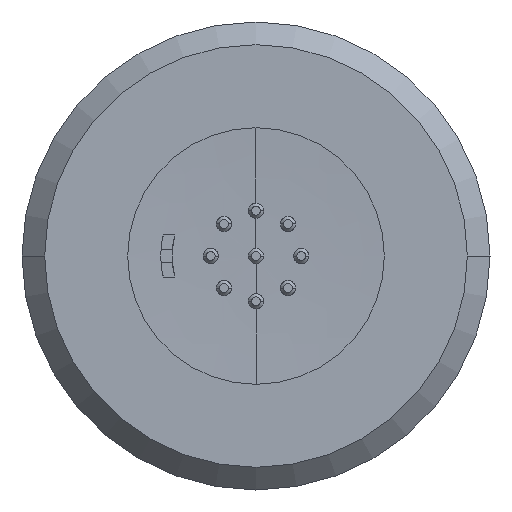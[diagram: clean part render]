
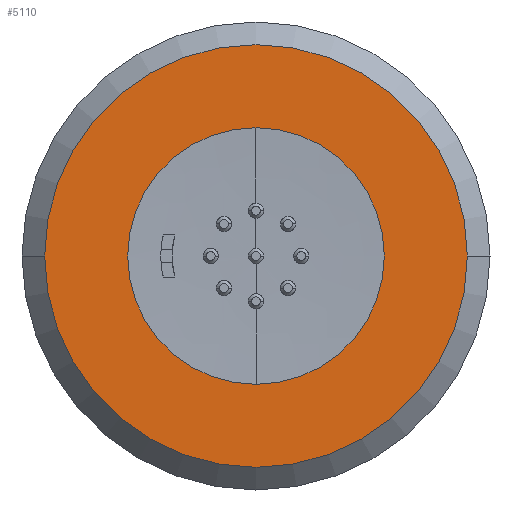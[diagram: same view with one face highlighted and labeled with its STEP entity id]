
A CAD part, left-side view. The second image highlights one B-rep face of the part: STEP entity #5110.
In plain terms, the highlighted planar face has unit normal (-1, 0, 0).
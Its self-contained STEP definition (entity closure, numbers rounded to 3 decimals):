
#1236=CARTESIAN_POINT('',(-15.5,0.,0.));
#1237=DIRECTION('',(1.,0.,0.));
#1238=DIRECTION('',(0.,-1.,0.));
#1239=AXIS2_PLACEMENT_3D('',#1236,#1237,#1238);
#1241=CARTESIAN_POINT('',(-15.5,0.,0.));
#1242=DIRECTION('',(1.,0.,0.));
#1243=DIRECTION('',(0.,0.,-1.));
#1244=AXIS2_PLACEMENT_3D('',#1241,#1242,#1243);
#1246=CARTESIAN_POINT('',(-15.5,0.,0.));
#1247=DIRECTION('',(1.,0.,0.));
#1248=DIRECTION('',(0.,1.,0.));
#1249=AXIS2_PLACEMENT_3D('',#1246,#1247,#1248);
#1251=CARTESIAN_POINT('',(-15.5,0.,0.));
#1252=DIRECTION('',(1.,0.,0.));
#1253=DIRECTION('',(0.,0.,1.));
#1254=AXIS2_PLACEMENT_3D('',#1251,#1252,#1253);
#1256=CARTESIAN_POINT('',(-15.5,0.,0.));
#1257=DIRECTION('',(-1.,0.,0.));
#1258=DIRECTION('',(0.,-1.,0.));
#1259=AXIS2_PLACEMENT_3D('',#1256,#1257,#1258);
#1261=CARTESIAN_POINT('',(-15.5,0.,0.));
#1262=DIRECTION('',(-1.,0.,0.));
#1263=DIRECTION('',(0.,1.,0.));
#1264=AXIS2_PLACEMENT_3D('',#1261,#1262,#1263);
#2873=CARTESIAN_POINT('',(-15.5,0.,7.));
#2874=CARTESIAN_POINT('',(-15.5,-7.,0.));
#2875=VERTEX_POINT('',#2873);
#2876=VERTEX_POINT('',#2874);
#2877=CARTESIAN_POINT('',(-15.5,7.,0.));
#2878=VERTEX_POINT('',#2877);
#2879=CARTESIAN_POINT('',(-15.5,0.,-7.));
#2880=VERTEX_POINT('',#2879);
#2881=CARTESIAN_POINT('',(-15.5,-4.25,0.));
#2882=CARTESIAN_POINT('',(-15.5,4.25,0.));
#2883=VERTEX_POINT('',#2881);
#2884=VERTEX_POINT('',#2882);
#5091=CARTESIAN_POINT('',(-15.5,0.,0.));
#5092=DIRECTION('',(1.,0.,0.));
#5093=DIRECTION('',(0.,-1.,0.));
#5094=AXIS2_PLACEMENT_3D('',#5091,#5092,#5093);
#5095=PLANE('',#5094);
#5097=ORIENTED_EDGE('',*,*,#5096,.T.);
#5099=ORIENTED_EDGE('',*,*,#5098,.T.);
#5100=ORIENTED_EDGE('',*,*,#5073,.T.);
#5101=ORIENTED_EDGE('',*,*,#5071,.T.);
#5102=EDGE_LOOP('',(#5097,#5099,#5100,#5101));
#5103=FACE_OUTER_BOUND('',#5102,.F.);
#5105=ORIENTED_EDGE('',*,*,#5104,.T.);
#5107=ORIENTED_EDGE('',*,*,#5106,.T.);
#5108=EDGE_LOOP('',(#5105,#5107));
#5109=FACE_BOUND('',#5108,.F.);
#1240=CIRCLE('',#1239,7.);
#1245=CIRCLE('',#1244,7.);
#1250=CIRCLE('',#1249,7.);
#1255=CIRCLE('',#1254,7.);
#1260=CIRCLE('',#1259,4.25);
#1265=CIRCLE('',#1264,4.25);
#5071=EDGE_CURVE('',#2875,#2876,#1255,.T.);
#5073=EDGE_CURVE('',#2878,#2875,#1250,.T.);
#5096=EDGE_CURVE('',#2876,#2880,#1240,.T.);
#5098=EDGE_CURVE('',#2880,#2878,#1245,.T.);
#5104=EDGE_CURVE('',#2883,#2884,#1260,.T.);
#5106=EDGE_CURVE('',#2884,#2883,#1265,.T.);
#5110=ADVANCED_FACE('',(#5103,#5109),#5095,.F.);
